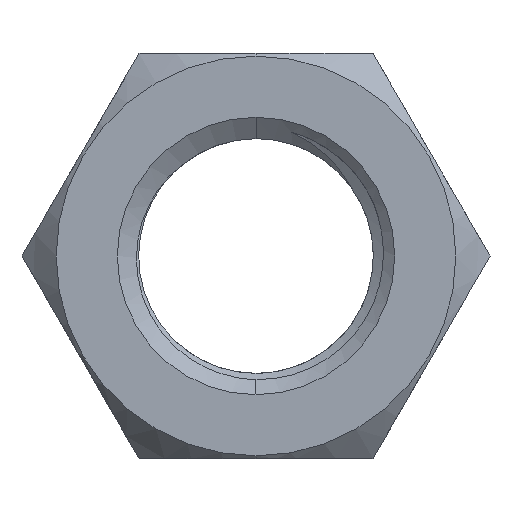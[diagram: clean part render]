
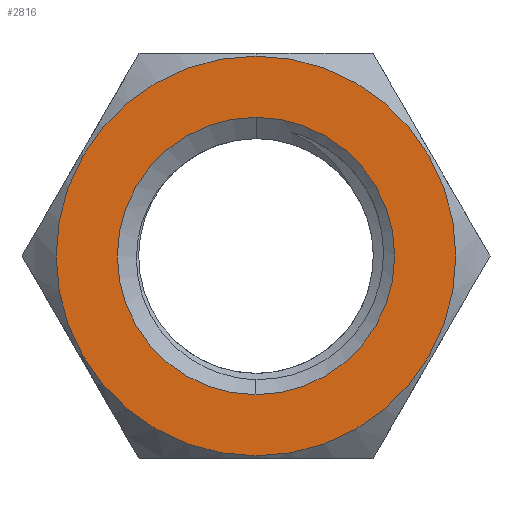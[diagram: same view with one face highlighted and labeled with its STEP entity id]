
A CAD part, front view. The second image highlights one B-rep face of the part: STEP entity #2816.
In plain terms, the highlighted planar face has unit normal (0, -1, 0).
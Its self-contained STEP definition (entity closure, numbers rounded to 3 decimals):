
#14 = PLANE ( 'NONE',  #347 ) ;
#181 = AXIS2_PLACEMENT_3D ( 'NONE', #1802, #3409, #2931 ) ;
#219 = CARTESIAN_POINT ( 'NONE',  ( 0., -5., 9.37 ) ) ;
#239 = CARTESIAN_POINT ( 'NONE',  ( 0., -5., 0. ) ) ;
#347 = AXIS2_PLACEMENT_3D ( 'NONE', #1858, #1362, #825 ) ;
#486 = EDGE_CURVE ( 'NONE', #990, #2640, #1770, .T. ) ;
#694 = CARTESIAN_POINT ( 'NONE',  ( 0., -5., -9.37 ) ) ;
#825 = DIRECTION ( 'NONE',  ( 0., 0., 1. ) ) ;
#911 = EDGE_LOOP ( 'NONE', ( #2203, #2469 ) ) ;
#922 = ORIENTED_EDGE ( 'NONE', *, *, #2230, .T. ) ;
#990 = VERTEX_POINT ( 'NONE', #1537 ) ;
#1014 = EDGE_CURVE ( 'NONE', #2658, #2243, #3297, .T. ) ;
#1172 = DIRECTION ( 'NONE',  ( 0., -1., 0. ) ) ;
#1276 = DIRECTION ( 'NONE',  ( 0., -1., 0. ) ) ;
#1362 = DIRECTION ( 'NONE',  ( 0., 1., 0. ) ) ;
#1415 = DIRECTION ( 'NONE',  ( 0., 0., -1. ) ) ;
#1437 = DIRECTION ( 'NONE',  ( 0., 0., -1. ) ) ;
#1537 = CARTESIAN_POINT ( 'NONE',  ( 0., -5., -6.5 ) ) ;
#1633 = FACE_BOUND ( 'NONE', #911, .T. ) ;
#1664 = CIRCLE ( 'NONE', #181, 9.37 ) ;
#1677 = DIRECTION ( 'NONE',  ( 0., -1., 0. ) ) ;
#1692 = CARTESIAN_POINT ( 'NONE',  ( 0., -5., 0. ) ) ;
#1770 = CIRCLE ( 'NONE', #3070, 6.5 ) ;
#1802 = CARTESIAN_POINT ( 'NONE',  ( 0., -5., 0. ) ) ;
#1829 = CIRCLE ( 'NONE', #2341, 6.5 ) ;
#1858 = CARTESIAN_POINT ( 'NONE',  ( 0., -5., 0. ) ) ;
#2124 = FACE_OUTER_BOUND ( 'NONE', #2801, .T. ) ;
#2203 = ORIENTED_EDGE ( 'NONE', *, *, #2684, .F. ) ;
#2230 = EDGE_CURVE ( 'NONE', #2243, #2658, #1664, .T. ) ;
#2243 = VERTEX_POINT ( 'NONE', #219 ) ;
#2281 = AXIS2_PLACEMENT_3D ( 'NONE', #2934, #1172, #1415 ) ;
#2322 = CARTESIAN_POINT ( 'NONE',  ( 0., -5., 6.5 ) ) ;
#2341 = AXIS2_PLACEMENT_3D ( 'NONE', #239, #1276, #2621 ) ;
#2469 = ORIENTED_EDGE ( 'NONE', *, *, #486, .F. ) ;
#2621 = DIRECTION ( 'NONE',  ( 0., 0., -1. ) ) ;
#2640 = VERTEX_POINT ( 'NONE', #2322 ) ;
#2658 = VERTEX_POINT ( 'NONE', #694 ) ;
#2684 = EDGE_CURVE ( 'NONE', #2640, #990, #1829, .T. ) ;
#2801 = EDGE_LOOP ( 'NONE', ( #922, #3282 ) ) ;
#2816 = ADVANCED_FACE ( 'NONE', ( #1633, #2124 ), #14, .F. ) ;
#2931 = DIRECTION ( 'NONE',  ( 0., 0., -1. ) ) ;
#2934 = CARTESIAN_POINT ( 'NONE',  ( 0., -5., 0. ) ) ;
#3070 = AXIS2_PLACEMENT_3D ( 'NONE', #1692, #1677, #1437 ) ;
#3282 = ORIENTED_EDGE ( 'NONE', *, *, #1014, .T. ) ;
#3297 = CIRCLE ( 'NONE', #2281, 9.37 ) ;
#3409 = DIRECTION ( 'NONE',  ( 0., -1., 0. ) ) ;
